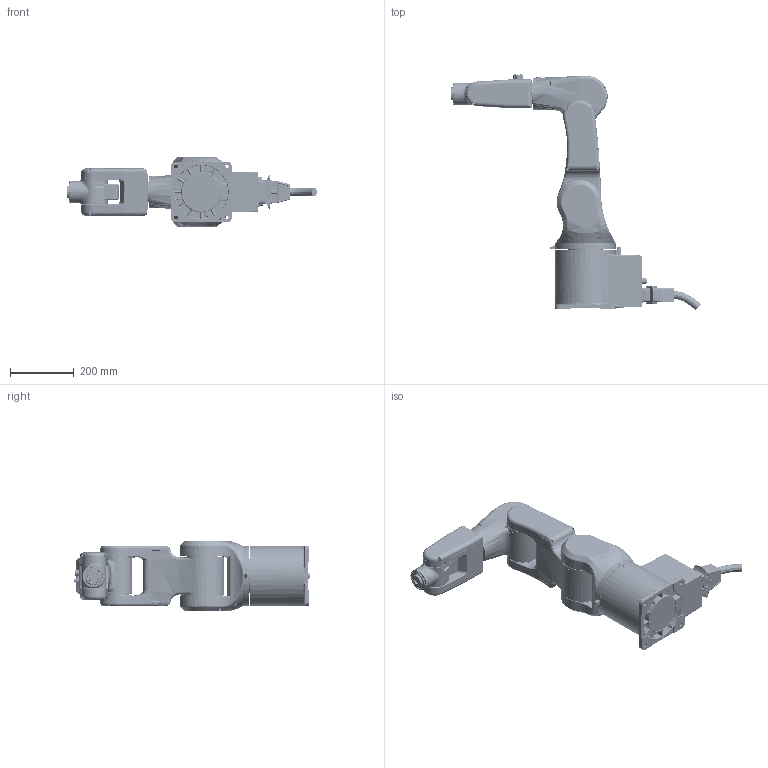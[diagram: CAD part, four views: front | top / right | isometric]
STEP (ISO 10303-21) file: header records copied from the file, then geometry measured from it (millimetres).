
FILE_DESCRIPTION (( 'STEP AP214' ), '1' );
FILE_NAME ('TRB050.STEP', '2020-11-03T08:29:18', ( '' ), ( '' ), 'SwSTEP 2.0', 'SolidWorks 2018', '' );
FILE_SCHEMA (( 'AUTOMOTIVE_DESIGN' ));
Length unit declared in the file: millimetre
Products named in the file (7): TRB050-AS6; TRB050-AS5; TRB050-AS4; TRB050-AS3; TRB050; TRB050-AS2; TRB050-AS1
Assembly tree (6 placements, depth 2):
  TRB050
    TRB050-AS1
    TRB050-AS2
    TRB050-AS3
    TRB050-AS4
    TRB050-AS5
    TRB050-AS6
Bounding box: 785.06 x 741.19 x 220 mm (x, y, z)
Volume: 6469034.6 mm3; surface area: 2066025.2 mm2
Topology: 28 solids, 49 shells, 8357 faces, 21675 edges, 13443 vertices
Faces by surface type: cylinder 2951, plane 2255, bspline 1464, cone 1252, torus 363, sphere 72
Entity records: 461436 total; most frequent: CARTESIAN_POINT 179493, ORIENTED_EDGE 42522, DIRECTION 35330, EDGE_CURVE 21273, AXIS2_PLACEMENT_3D 13667, VERTEX_POINT 13443, EDGE_LOOP 9474, UNCERTAINTY_MEASURE_WITH_UNIT 8416
